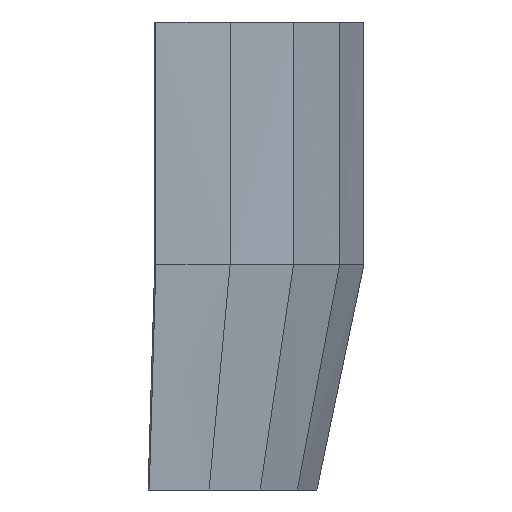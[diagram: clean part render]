
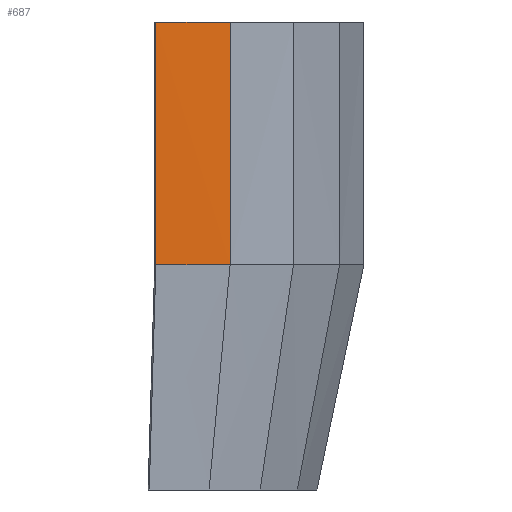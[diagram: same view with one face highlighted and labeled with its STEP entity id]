
A CAD part, left-side view. The second image highlights one B-rep face of the part: STEP entity #687.
In plain terms, the highlighted free-form (B-spline) face has degree [1, 1] with [2, 2] control points.
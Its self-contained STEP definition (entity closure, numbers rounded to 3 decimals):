
#44 = PLANE('',#45);
#45 = AXIS2_PLACEMENT_3D('',#46,#47,#48);
#46 = CARTESIAN_POINT('',(131.949,-13.639,-58.));
#47 = DIRECTION('',(0.,0.,1.));
#48 = DIRECTION('',(-1.,0.,0.));
#571 = B_SPLINE_SURFACE_WITH_KNOTS('',1,1,(
    (#572,#573)
    ,(#574,#575
    )),.UNSPECIFIED.,.F.,.F.,.F.,(2,2),(2,2),(0.,32.131),(0.,1.
    ),.PIECEWISE_BEZIER_KNOTS.);
#572 = CARTESIAN_POINT('',(-52.104,-68.621,-58.));
#573 = CARTESIAN_POINT('',(-46.393,-68.621,-155.));
#574 = CARTESIAN_POINT('',(-71.885,-43.302,-58.));
#575 = CARTESIAN_POINT('',(-64.709,-43.302,-155.));
#613 = VERTEX_POINT('',#614);
#614 = CARTESIAN_POINT('',(-71.885,-43.302,-58.));
#635 = EDGE_CURVE('',#613,#636,#638,.T.);
#636 = VERTEX_POINT('',#637);
#637 = CARTESIAN_POINT('',(-64.709,-43.302,-155.));
#638 = SURFACE_CURVE('',#639,(#642,#649),.PCURVE_S1.);
#639 = B_SPLINE_CURVE_WITH_KNOTS('',1,(#640,#641),.UNSPECIFIED.,.F.,.F.,
  (2,2),(0.,1.),.PIECEWISE_BEZIER_KNOTS.);
#640 = CARTESIAN_POINT('',(-71.885,-43.302,-58.));
#641 = CARTESIAN_POINT('',(-64.709,-43.302,-155.));
#642 = PCURVE('',#571,#643);
#643 = DEFINITIONAL_REPRESENTATION('',(#644),#648);
#644 = LINE('',#645,#646);
#645 = CARTESIAN_POINT('',(32.131,0.));
#646 = VECTOR('',#647,1.);
#647 = DIRECTION('',(0.,1.));
#648 = ( GEOMETRIC_REPRESENTATION_CONTEXT(2) 
PARAMETRIC_REPRESENTATION_CONTEXT() REPRESENTATION_CONTEXT('2D SPACE',''
  ) );
#649 = PCURVE('',#650,#655);
#650 = B_SPLINE_SURFACE_WITH_KNOTS('',1,1,(
    (#651,#652)
    ,(#653,#654
    )),.UNSPECIFIED.,.F.,.F.,.F.,(2,2),(2,2),(0.,31.323),(0.,1.
    ),.PIECEWISE_BEZIER_KNOTS.);
#651 = CARTESIAN_POINT('',(-71.885,-43.302,-58.));
#652 = CARTESIAN_POINT('',(-64.709,-43.302,-155.));
#653 = CARTESIAN_POINT('',(-81.949,-13.639,-58.));
#654 = CARTESIAN_POINT('',(-74.027,-13.639,-155.));
#655 = DEFINITIONAL_REPRESENTATION('',(#656),#660);
#656 = LINE('',#657,#658);
#657 = CARTESIAN_POINT('',(0.,0.));
#658 = VECTOR('',#659,1.);
#659 = DIRECTION('',(0.,1.));
#660 = ( GEOMETRIC_REPRESENTATION_CONTEXT(2) 
PARAMETRIC_REPRESENTATION_CONTEXT() REPRESENTATION_CONTEXT('2D SPACE',''
  ) );
#687 = ADVANCED_FACE('',(#688),#650,.T.);
#688 = FACE_BOUND('',#689,.T.);
#689 = EDGE_LOOP('',(#690,#713,#740,#765));
#690 = ORIENTED_EDGE('',*,*,#691,.T.);
#691 = EDGE_CURVE('',#613,#692,#694,.T.);
#692 = VERTEX_POINT('',#693);
#693 = CARTESIAN_POINT('',(-81.949,-13.639,-58.));
#694 = SURFACE_CURVE('',#695,(#699,#706),.PCURVE_S1.);
#695 = LINE('',#696,#697);
#696 = CARTESIAN_POINT('',(-71.885,-43.302,-58.));
#697 = VECTOR('',#698,1.);
#698 = DIRECTION('',(-0.321,0.947,0.));
#699 = PCURVE('',#650,#700);
#700 = DEFINITIONAL_REPRESENTATION('',(#701),#705);
#701 = LINE('',#702,#703);
#702 = CARTESIAN_POINT('',(0.,0.));
#703 = VECTOR('',#704,1.);
#704 = DIRECTION('',(1.,0.));
#705 = ( GEOMETRIC_REPRESENTATION_CONTEXT(2) 
PARAMETRIC_REPRESENTATION_CONTEXT() REPRESENTATION_CONTEXT('2D SPACE',''
  ) );
#706 = PCURVE('',#44,#707);
#707 = DEFINITIONAL_REPRESENTATION('',(#708),#712);
#708 = LINE('',#709,#710);
#709 = CARTESIAN_POINT('',(203.834,29.663));
#710 = VECTOR('',#711,1.);
#711 = DIRECTION('',(0.321,-0.947));
#712 = ( GEOMETRIC_REPRESENTATION_CONTEXT(2) 
PARAMETRIC_REPRESENTATION_CONTEXT() REPRESENTATION_CONTEXT('2D SPACE',''
  ) );
#713 = ORIENTED_EDGE('',*,*,#714,.T.);
#714 = EDGE_CURVE('',#692,#715,#717,.T.);
#715 = VERTEX_POINT('',#716);
#716 = CARTESIAN_POINT('',(-74.027,-13.639,-155.));
#717 = SURFACE_CURVE('',#718,(#721,#728),.PCURVE_S1.);
#718 = B_SPLINE_CURVE_WITH_KNOTS('',1,(#719,#720),.UNSPECIFIED.,.F.,.F.,
  (2,2),(0.,1.),.PIECEWISE_BEZIER_KNOTS.);
#719 = CARTESIAN_POINT('',(-81.949,-13.639,-58.));
#720 = CARTESIAN_POINT('',(-74.027,-13.639,-155.));
#721 = PCURVE('',#650,#722);
#722 = DEFINITIONAL_REPRESENTATION('',(#723),#727);
#723 = LINE('',#724,#725);
#724 = CARTESIAN_POINT('',(31.323,0.));
#725 = VECTOR('',#726,1.);
#726 = DIRECTION('',(0.,1.));
#727 = ( GEOMETRIC_REPRESENTATION_CONTEXT(2) 
PARAMETRIC_REPRESENTATION_CONTEXT() REPRESENTATION_CONTEXT('2D SPACE',''
  ) );
#728 = PCURVE('',#729,#734);
#729 = B_SPLINE_SURFACE_WITH_KNOTS('',1,1,(
    (#730,#731)
    ,(#732,#733
  )),.UNSPECIFIED.,.F.,.F.,.F.,(2,2),(2,2),(0.,3.5),(0.,1.),
  .PIECEWISE_BEZIER_KNOTS.);
#730 = CARTESIAN_POINT('',(-81.949,-13.639,-58.));
#731 = CARTESIAN_POINT('',(-74.027,-13.639,-155.));
#732 = CARTESIAN_POINT('',(-78.483,-13.152,-58.));
#733 = CARTESIAN_POINT('',(-70.561,-13.152,-155.));
#734 = DEFINITIONAL_REPRESENTATION('',(#735),#739);
#735 = LINE('',#736,#737);
#736 = CARTESIAN_POINT('',(0.,0.));
#737 = VECTOR('',#738,1.);
#738 = DIRECTION('',(0.,1.));
#739 = ( GEOMETRIC_REPRESENTATION_CONTEXT(2) 
PARAMETRIC_REPRESENTATION_CONTEXT() REPRESENTATION_CONTEXT('2D SPACE',''
  ) );
#740 = ORIENTED_EDGE('',*,*,#741,.F.);
#741 = EDGE_CURVE('',#636,#715,#742,.T.);
#742 = SURFACE_CURVE('',#743,(#747,#753),.PCURVE_S1.);
#743 = LINE('',#744,#745);
#744 = CARTESIAN_POINT('',(-64.709,-43.302,-155.));
#745 = VECTOR('',#746,1.);
#746 = DIRECTION('',(-0.3,0.954,0.));
#747 = PCURVE('',#650,#748);
#748 = DEFINITIONAL_REPRESENTATION('',(#749),#752);
#749 = B_SPLINE_CURVE_WITH_KNOTS('',1,(#750,#751),.UNSPECIFIED.,.F.,.F.,
  (2,2),(0.,31.092),.PIECEWISE_BEZIER_KNOTS.);
#750 = CARTESIAN_POINT('',(0.,1.));
#751 = CARTESIAN_POINT('',(31.323,1.));
#752 = ( GEOMETRIC_REPRESENTATION_CONTEXT(2) 
PARAMETRIC_REPRESENTATION_CONTEXT() REPRESENTATION_CONTEXT('2D SPACE',''
  ) );
#753 = PCURVE('',#754,#759);
#754 = B_SPLINE_SURFACE_WITH_KNOTS('',1,1,(
    (#755,#756)
    ,(#757,#758
    )),.UNSPECIFIED.,.F.,.F.,.F.,(2,2),(2,2),(0.,31.092),(0.,1.
    ),.PIECEWISE_BEZIER_KNOTS.);
#755 = CARTESIAN_POINT('',(-64.709,-43.302,-155.));
#756 = CARTESIAN_POINT('',(-53.944,-34.906,-245.));
#757 = CARTESIAN_POINT('',(-74.027,-13.639,-155.));
#758 = CARTESIAN_POINT('',(-62.144,-10.995,-245.));
#759 = DEFINITIONAL_REPRESENTATION('',(#760),#764);
#760 = LINE('',#761,#762);
#761 = CARTESIAN_POINT('',(0.,0.));
#762 = VECTOR('',#763,1.);
#763 = DIRECTION('',(1.,0.));
#764 = ( GEOMETRIC_REPRESENTATION_CONTEXT(2) 
PARAMETRIC_REPRESENTATION_CONTEXT() REPRESENTATION_CONTEXT('2D SPACE',''
  ) );
#765 = ORIENTED_EDGE('',*,*,#635,.F.);
